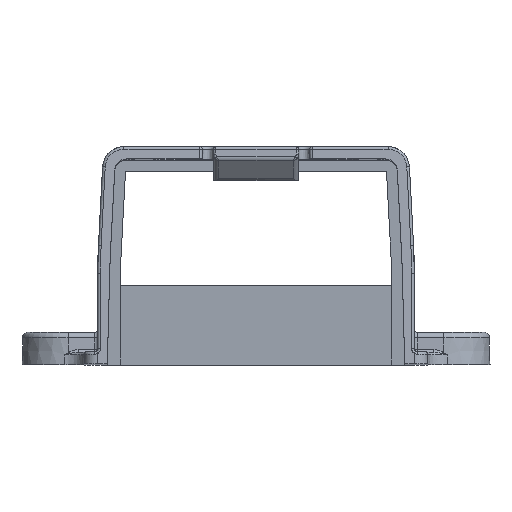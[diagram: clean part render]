
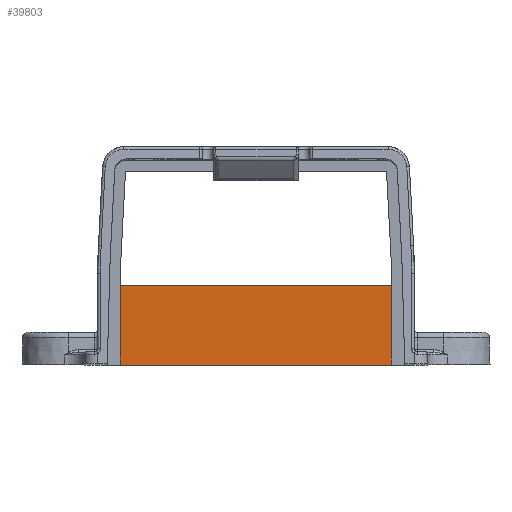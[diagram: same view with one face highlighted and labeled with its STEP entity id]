
A CAD part, top view. The second image highlights one B-rep face of the part: STEP entity #39803.
In plain terms, the highlighted planar face has unit normal (0, -0.052, 0.999).
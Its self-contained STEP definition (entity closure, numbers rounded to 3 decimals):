
#8131=DIRECTION('',(1.,0.,0.));
#8132=VECTOR('',#8131,50.4);
#8133=CARTESIAN_POINT('',(-25.2,-19.5,-3.122));
#8134=LINE('',#8133,#8132);
#12632=DIRECTION('',(0.,0.999,0.052));
#12633=VECTOR('',#12632,14.82);
#12634=CARTESIAN_POINT('',(25.2,-19.5,-3.122));
#12635=LINE('',#12634,#12633);
#12644=DIRECTION('',(1.,0.,0.));
#12645=VECTOR('',#12644,50.4);
#12646=CARTESIAN_POINT('',(-25.2,-4.7,-2.346));
#12647=LINE('',#12646,#12645);
#12648=DIRECTION('',(0.,0.999,0.052));
#12649=VECTOR('',#12648,14.82);
#12650=CARTESIAN_POINT('',(-25.2,-19.5,-3.122));
#12651=LINE('',#12650,#12649);
#15127=CARTESIAN_POINT('',(-25.2,-19.5,-3.122));
#15128=CARTESIAN_POINT('',(-25.2,-4.7,-2.346));
#15129=VERTEX_POINT('',#15127);
#15130=VERTEX_POINT('',#15128);
#15131=CARTESIAN_POINT('',(25.2,-19.5,-3.122));
#15132=CARTESIAN_POINT('',(25.2,-4.7,-2.346));
#15133=VERTEX_POINT('',#15131);
#15134=VERTEX_POINT('',#15132);
#39791=CARTESIAN_POINT('',(-29.5,-4.7,-2.346));
#39792=DIRECTION('',(0.,-0.052,0.999));
#39793=DIRECTION('',(0.,-0.999,-0.052));
#39794=AXIS2_PLACEMENT_3D('',#39791,#39792,#39793);
#39795=PLANE('',#39794);
#39797=ORIENTED_EDGE('',*,*,#39796,.T.);
#39798=ORIENTED_EDGE('',*,*,#17908,.T.);
#39799=ORIENTED_EDGE('',*,*,#39780,.F.);
#39800=ORIENTED_EDGE('',*,*,#32722,.F.);
#39801=EDGE_LOOP('',(#39797,#39798,#39799,#39800));
#39802=FACE_OUTER_BOUND('',#39801,.F.);
#17908=EDGE_CURVE('',#15130,#15134,#12647,.T.);
#32722=EDGE_CURVE('',#15129,#15133,#8134,.T.);
#39780=EDGE_CURVE('',#15133,#15134,#12635,.T.);
#39796=EDGE_CURVE('',#15129,#15130,#12651,.T.);
#39803=ADVANCED_FACE('',(#39802),#39795,.T.);
